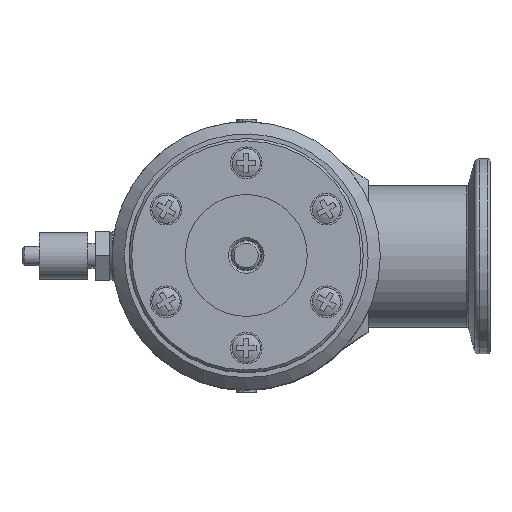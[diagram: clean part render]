
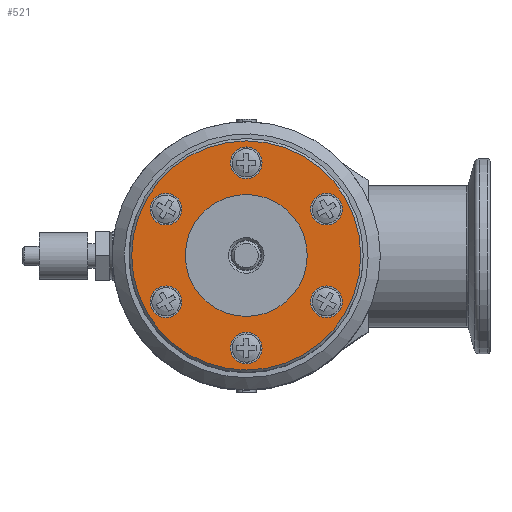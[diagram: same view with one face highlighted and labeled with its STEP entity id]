
A CAD part, top view. The second image highlights one B-rep face of the part: STEP entity #521.
In plain terms, the highlighted planar face has unit normal (0, 0, 1) as drawn and (0, 0, -1) by its records, which use the part's own axes.
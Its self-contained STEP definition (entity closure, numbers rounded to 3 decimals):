
#521 = ADVANCED_FACE( '', ( #962, #963, #964, #965, #966, #967, #968, #969 ), #970, .T. );
#962 = FACE_OUTER_BOUND( '', #1440, .T. );
#963 = FACE_BOUND( '', #1441, .T. );
#964 = FACE_BOUND( '', #1442, .T. );
#965 = FACE_BOUND( '', #1443, .T. );
#966 = FACE_BOUND( '', #1444, .T. );
#967 = FACE_BOUND( '', #1445, .T. );
#968 = FACE_BOUND( '', #1446, .T. );
#969 = FACE_BOUND( '', #1447, .T. );
#970 = PLANE( '', #1448 );
#1440 = EDGE_LOOP( '', ( #2128 ) );
#1441 = EDGE_LOOP( '', ( #2129 ) );
#1442 = EDGE_LOOP( '', ( #2130 ) );
#1443 = EDGE_LOOP( '', ( #2131 ) );
#1444 = EDGE_LOOP( '', ( #2132 ) );
#1445 = EDGE_LOOP( '', ( #2133 ) );
#1446 = EDGE_LOOP( '', ( #2134 ) );
#1447 = EDGE_LOOP( '', ( #2135 ) );
#1448 = AXIS2_PLACEMENT_3D( '', #2136, #2137, #2138 );
#2128 = ORIENTED_EDGE( '', *, *, #2742, .T. );
#2129 = ORIENTED_EDGE( '', *, *, #2743, .T. );
#2130 = ORIENTED_EDGE( '', *, *, #2744, .T. );
#2131 = ORIENTED_EDGE( '', *, *, #2745, .T. );
#2132 = ORIENTED_EDGE( '', *, *, #2746, .T. );
#2133 = ORIENTED_EDGE( '', *, *, #2747, .T. );
#2134 = ORIENTED_EDGE( '', *, *, #2748, .T. );
#2135 = ORIENTED_EDGE( '', *, *, #2749, .T. );
#2136 = CARTESIAN_POINT( '', ( 0., 0., 0. ) );
#2137 = DIRECTION( '', ( 0., 0., -1. ) );
#2138 = DIRECTION( '', ( -1., 0., 0. ) );
#2742 = EDGE_CURVE( '', #3082, #3082, #3083, .T. );
#2743 = EDGE_CURVE( '', #3084, #3084, #3085, .T. );
#2744 = EDGE_CURVE( '', #3086, #3086, #3087, .T. );
#2745 = EDGE_CURVE( '', #3088, #3088, #3089, .T. );
#2746 = EDGE_CURVE( '', #3090, #3090, #3091, .T. );
#2747 = EDGE_CURVE( '', #3092, #3092, #3093, .T. );
#2748 = EDGE_CURVE( '', #3094, #3094, #3095, .T. );
#2749 = EDGE_CURVE( '', #3096, #3096, #3097, .T. );
#3082 = VERTEX_POINT( '', #4010 );
#3083 = CIRCLE( '', #4011, 23.5 );
#3084 = VERTEX_POINT( '', #4012 );
#3085 = CIRCLE( '', #4013, 3.25 );
#3086 = VERTEX_POINT( '', #4014 );
#3087 = CIRCLE( '', #4015, 3.25 );
#3088 = VERTEX_POINT( '', #4016 );
#3089 = CIRCLE( '', #4017, 3.25 );
#3090 = VERTEX_POINT( '', #4018 );
#3091 = CIRCLE( '', #4019, 3.25 );
#3092 = VERTEX_POINT( '', #4020 );
#3093 = CIRCLE( '', #4021, 3.25 );
#3094 = VERTEX_POINT( '', #4022 );
#3095 = CIRCLE( '', #4023, 3.25 );
#3096 = VERTEX_POINT( '', #4024 );
#3097 = CIRCLE( '', #4025, 12.5 );
#4010 = CARTESIAN_POINT( '', ( -23.5, 0., 0. ) );
#4011 = AXIS2_PLACEMENT_3D( '', #4409, #4410, #4411 );
#4012 = CARTESIAN_POINT( '', ( 9.5, -13.204, 0. ) );
#4013 = AXIS2_PLACEMENT_3D( '', #4412, #4413, #4414 );
#4014 = CARTESIAN_POINT( '', ( -9.5, -13.204, 0. ) );
#4015 = AXIS2_PLACEMENT_3D( '', #4415, #4416, #4417 );
#4016 = CARTESIAN_POINT( '', ( -19., 3.25, 0. ) );
#4017 = AXIS2_PLACEMENT_3D( '', #4418, #4419, #4420 );
#4018 = CARTESIAN_POINT( '', ( -9.5, 19.704, 0. ) );
#4019 = AXIS2_PLACEMENT_3D( '', #4421, #4422, #4423 );
#4020 = CARTESIAN_POINT( '', ( 9.5, 19.704, 0. ) );
#4021 = AXIS2_PLACEMENT_3D( '', #4424, #4425, #4426 );
#4022 = CARTESIAN_POINT( '', ( 19., 3.25, 0. ) );
#4023 = AXIS2_PLACEMENT_3D( '', #4427, #4428, #4429 );
#4024 = CARTESIAN_POINT( '', ( 0., 12.5, 0. ) );
#4025 = AXIS2_PLACEMENT_3D( '', #4430, #4431, #4432 );
#4409 = CARTESIAN_POINT( '', ( 0., 0., 0. ) );
#4410 = DIRECTION( '', ( 0., 0., -1. ) );
#4411 = DIRECTION( '', ( -1., 0., 0. ) );
#4412 = CARTESIAN_POINT( '', ( 9.5, -16.454, 0. ) );
#4413 = DIRECTION( '', ( 0., 0., 1. ) );
#4414 = DIRECTION( '', ( 0., 1., 0. ) );
#4415 = CARTESIAN_POINT( '', ( -9.5, -16.454, 0. ) );
#4416 = DIRECTION( '', ( 0., 0., 1. ) );
#4417 = DIRECTION( '', ( 0., 1., 0. ) );
#4418 = CARTESIAN_POINT( '', ( -19., 0., 0. ) );
#4419 = DIRECTION( '', ( 0., 0., 1. ) );
#4420 = DIRECTION( '', ( 0., 1., 0. ) );
#4421 = CARTESIAN_POINT( '', ( -9.5, 16.454, 0. ) );
#4422 = DIRECTION( '', ( 0., 0., 1. ) );
#4423 = DIRECTION( '', ( 0., 1., 0. ) );
#4424 = CARTESIAN_POINT( '', ( 9.5, 16.454, 0. ) );
#4425 = DIRECTION( '', ( 0., 0., 1. ) );
#4426 = DIRECTION( '', ( 0., 1., 0. ) );
#4427 = CARTESIAN_POINT( '', ( 19., 0., 0. ) );
#4428 = DIRECTION( '', ( 0., 0., 1. ) );
#4429 = DIRECTION( '', ( 0., 1., 0. ) );
#4430 = CARTESIAN_POINT( '', ( 0., 0., 0. ) );
#4431 = DIRECTION( '', ( 0., 0., 1. ) );
#4432 = DIRECTION( '', ( 0., 1., 0. ) );
